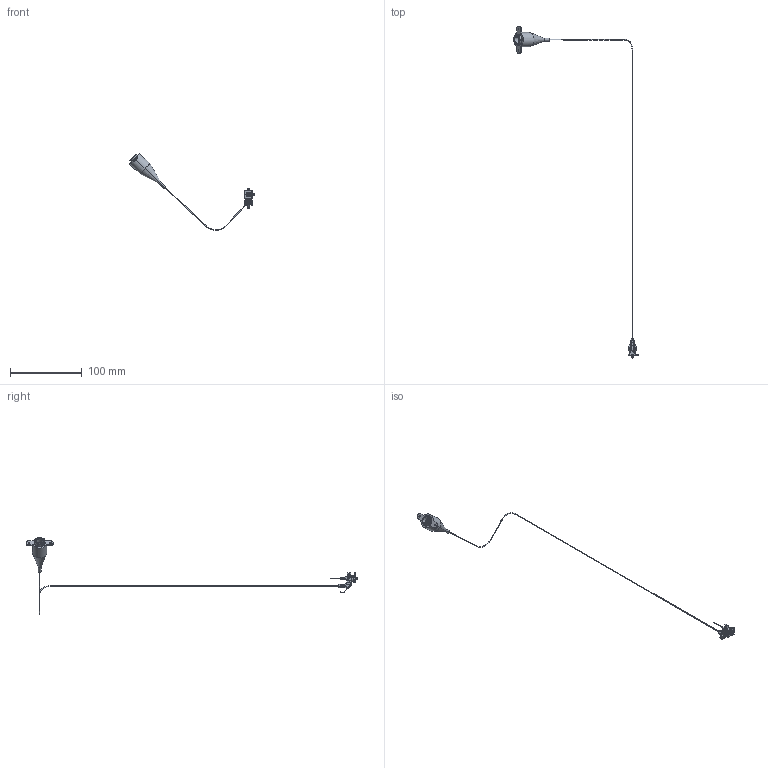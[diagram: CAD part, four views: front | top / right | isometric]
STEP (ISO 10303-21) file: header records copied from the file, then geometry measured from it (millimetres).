
FILE_DESCRIPTION (( 'STEP AP203' ), '1' );
FILE_NAME ('MINI2P.STEP', '2021-07-30T09:35:47', ( '' ), ( '' ), 'SwSTEP 2.0', 'SolidWorks 2020', '' );
FILE_SCHEMA (( 'CONFIG_CONTROL_DESIGN' ));
Length unit declared in the file: inch
Products named in the file (48): 109-ScanLens_D0166; DWG-0327C - 4.4mm Packaged Silver Tlens.STEP; Blacksheet_v6.2 - Assembly.STEP; MINI2P; 03 - SideGlue 6.2.STEP; 40.2210F.A.000.STEP; 43-CollimatingLens___; 109-DM___; 40-CouplingLens; T-lens for Customer.STEP; 111-Objective_D0213; Polymer target.STEP; 117-MEMSPCB; 114-TLENS; Blacksheet_v6.2 - Base.STEP; 04 - Gold Wire 6.2.STEP; 108-M1.6; Metal_part_v6.2.STEP; 115-MEMS2000Hz; Si cavity wall.STEP; 24-CouplingProtector; HC-920 Assembly; 31-HC920; 106-Baseplate; 23-CouplingHolder; Scopebody adapter_V2_lateralshifting_ML-0000_AP0000___; 108-M1.2; 33-GlassFlange; 103-ScopeBody P2 ; Top_stack_for customer.STEP; 26-CollimatorHolder___; 102-ScopeBody P1 ___; Plastic_part_v6.2 - upsidedown.STEP; 30-TFB; 104-ScopeBody P3 ___; Blacksheet_v6.2 - Adhesive.STEP
Assembly tree (102 placements, depth 5):
  MINI2P
    102-ScopeBody P1 ___
    109-DM___
    109-ScanLens_D0166
    111-Objective_D0213
    104-ScopeBody P3 ___
    114-TLENS
      DWG-0327C - 4.4mm Packaged Silver Tlens.STEP
        T-lens for Customer.STEP
          Top_stack_for customer.STEP
          Si cavity wall.STEP
          40.2210F.A.000.STEP
          Polymer target.STEP
        Blacksheet_v6.2 - Assembly.STEP
          Blacksheet_v6.2 - Base.STEP
          Blacksheet_v6.2 - Adhesive.STEP
        Metal_part_v6.2.STEP
        Plastic_part_v6.2 - upsidedown.STEP
        03 - SideGlue 6.2.STEP  x4
        04 - Gold Wire 6.2.STEP  x2
    114-TLENS
      DWG-0327C - 4.4mm Packaged Silver Tlens.STEP
        T-lens for Customer.STEP
          Top_stack_for customer.STEP
          Si cavity wall.STEP
          40.2210F.A.000.STEP
          Polymer target.STEP
        Blacksheet_v6.2 - Assembly.STEP
          Blacksheet_v6.2 - Base.STEP
          Blacksheet_v6.2 - Adhesive.STEP
        Metal_part_v6.2.STEP
        Plastic_part_v6.2 - upsidedown.STEP
        03 - SideGlue 6.2.STEP  x4
        04 - Gold Wire 6.2.STEP  x2
    114-TLENS
      DWG-0327C - 4.4mm Packaged Silver Tlens.STEP
        T-lens for Customer.STEP
          Top_stack_for customer.STEP
          Si cavity wall.STEP
          40.2210F.A.000.STEP
          Polymer target.STEP
        Blacksheet_v6.2 - Assembly.STEP
          Blacksheet_v6.2 - Base.STEP
          Blacksheet_v6.2 - Adhesive.STEP
        Metal_part_v6.2.STEP
        Plastic_part_v6.2 - upsidedown.STEP
        03 - SideGlue 6.2.STEP  x4
        04 - Gold Wire 6.2.STEP  x2
    114-TLENS
      DWG-0327C - 4.4mm Packaged Silver Tlens.STEP
        T-lens for Customer.STEP
          Top_stack_for customer.STEP
          Si cavity wall.STEP
          40.2210F.A.000.STEP
          Polymer target.STEP
        Blacksheet_v6.2 - Assembly.STEP
          Blacksheet_v6.2 - Base.STEP
          Blacksheet_v6.2 - Adhesive.STEP
        Metal_part_v6.2.STEP
        Plastic_part_v6.2 - upsidedown.STEP
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Bounding box: 173.98 x 463.31 x 107.03 mm (x, y, z)
Volume: 9820.8 mm3; surface area: 13313.9 mm2
Topology: 80 solids, 112 shells, 3970 faces, 11572 edges, 8080 vertices
Faces by surface type: plane 2349, cylinder 1045, cone 250, torus 156, bspline 136, sphere 34
Entity records: 71283 total; most frequent: CARTESIAN_POINT 17733, ORIENTED_EDGE 10260, DIRECTION 9066, EDGE_CURVE 5139, VERTEX_POINT 3575, LINE 3150, VECTOR 3150, AXIS2_PLACEMENT_3D 2958
